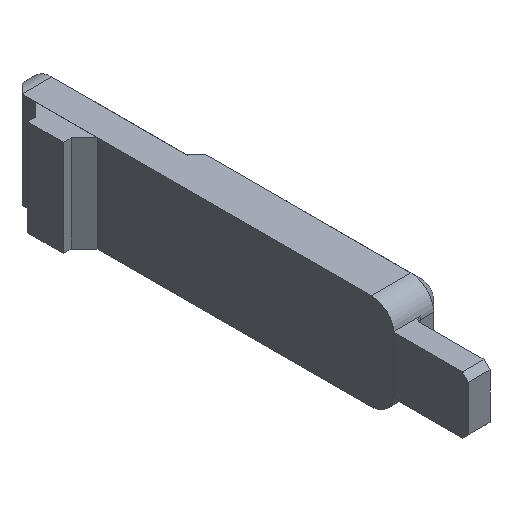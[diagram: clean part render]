
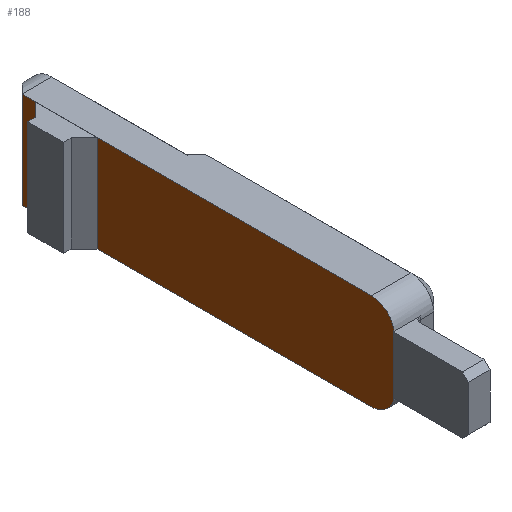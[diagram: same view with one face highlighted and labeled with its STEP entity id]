
A CAD part, isometric view. The second image highlights one B-rep face of the part: STEP entity #188.
In plain terms, the highlighted planar face has unit normal (-1, -0.001, 0).
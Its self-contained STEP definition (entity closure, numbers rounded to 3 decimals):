
#83=CARTESIAN_POINT('',(20.382,0.02,0.));
#84=DIRECTION('',(1.,0.001,0.));
#85=DIRECTION('',(-0.001,1.,0.));
#86=AXIS2_PLACEMENT_3D('',#83,#84,#85);
#87=PLANE('',#86);
#88=CARTESIAN_POINT('',(20.16,223.064,37.028));
#89=VERTEX_POINT('',#88);
#90=CARTESIAN_POINT('',(20.189,193.843,37.028));
#91=VERTEX_POINT('',#90);
#92=CARTESIAN_POINT('',(20.16,223.064,37.028));
#93=DIRECTION('',(0.001,-1.,0.));
#94=VECTOR('',#93,29.221);
#95=LINE('',#92,#94);
#96=EDGE_CURVE('',#89,#91,#95,.T.);
#97=ORIENTED_EDGE('',*,*,#96,.F.);
#98=CARTESIAN_POINT('',(20.16,223.064,28.972));
#99=VERTEX_POINT('',#98);
#100=CARTESIAN_POINT('',(20.16,223.064,37.028));
#101=DIRECTION('',(0.,0.,-1.));
#102=VECTOR('',#101,8.057);
#103=LINE('',#100,#102);
#104=EDGE_CURVE('',#89,#99,#103,.T.);
#105=ORIENTED_EDGE('',*,*,#104,.T.);
#106=CARTESIAN_POINT('',(20.161,221.954,28.972));
#107=VERTEX_POINT('',#106);
#108=CARTESIAN_POINT('',(20.161,221.954,28.972));
#109=DIRECTION('',(-0.001,1.,-0.));
#110=VECTOR('',#109,1.11);
#111=LINE('',#108,#110);
#112=EDGE_CURVE('',#107,#99,#111,.T.);
#113=ORIENTED_EDGE('',*,*,#112,.F.);
#114=CARTESIAN_POINT('',(20.161,221.954,37.027));
#115=VERTEX_POINT('',#114);
#116=CARTESIAN_POINT('',(20.161,221.954,28.972));
#117=DIRECTION('',(0.,0.,1.));
#118=VECTOR('',#117,8.055);
#119=LINE('',#116,#118);
#120=EDGE_CURVE('',#107,#115,#119,.T.);
#121=ORIENTED_EDGE('',*,*,#120,.T.);
#122=CARTESIAN_POINT('',(20.167,216.754,37.027));
#123=VERTEX_POINT('',#122);
#124=CARTESIAN_POINT('',(20.167,216.754,37.027));
#125=DIRECTION('',(-0.001,1.,-0.));
#126=VECTOR('',#125,5.2);
#127=LINE('',#124,#126);
#128=EDGE_CURVE('',#123,#115,#127,.T.);
#129=ORIENTED_EDGE('',*,*,#128,.F.);
#130=CARTESIAN_POINT('',(20.167,216.754,28.972));
#131=VERTEX_POINT('',#130);
#132=CARTESIAN_POINT('',(20.167,216.754,37.027));
#133=DIRECTION('',(0.,0.,-1.));
#134=VECTOR('',#133,8.055);
#135=LINE('',#132,#134);
#136=EDGE_CURVE('',#123,#131,#135,.T.);
#137=ORIENTED_EDGE('',*,*,#136,.T.);
#138=CARTESIAN_POINT('',(20.189,193.843,28.972));
#139=VERTEX_POINT('',#138);
#140=CARTESIAN_POINT('',(20.189,193.843,28.972));
#141=DIRECTION('',(-0.001,1.,-0.));
#142=VECTOR('',#141,22.911);
#143=LINE('',#140,#142);
#144=EDGE_CURVE('',#139,#131,#143,.T.);
#145=ORIENTED_EDGE('',*,*,#144,.F.);
#146=CARTESIAN_POINT('',(20.191,191.963,30.6));
#147=VERTEX_POINT('',#146);
#148=CARTESIAN_POINT('',(20.189,193.843,30.872));
#149=DIRECTION('',(-1.,-0.001,0.));
#150=DIRECTION('',(-0.001,1.,0.));
#151=AXIS2_PLACEMENT_3D('',#148,#149,#150);
#152=CIRCLE('',#151,1.9);
#153=EDGE_CURVE('',#139,#147,#152,.T.);
#154=ORIENTED_EDGE('',*,*,#153,.T.);
#155=CARTESIAN_POINT('',(20.191,192.043,30.6));
#156=VERTEX_POINT('',#155);
#157=CARTESIAN_POINT('',(20.191,192.043,30.6));
#158=DIRECTION('',(0.001,-1.,0.));
#159=VECTOR('',#158,0.08);
#160=LINE('',#157,#159);
#161=EDGE_CURVE('',#156,#147,#160,.T.);
#162=ORIENTED_EDGE('',*,*,#161,.F.);
#163=CARTESIAN_POINT('',(20.191,192.043,35.4));
#164=VERTEX_POINT('',#163);
#165=CARTESIAN_POINT('',(20.191,192.043,30.6));
#166=DIRECTION('',(0.,0.,1.));
#167=VECTOR('',#166,4.8);
#168=LINE('',#165,#167);
#169=EDGE_CURVE('',#156,#164,#168,.T.);
#170=ORIENTED_EDGE('',*,*,#169,.T.);
#171=CARTESIAN_POINT('',(20.191,191.963,35.4));
#172=VERTEX_POINT('',#171);
#173=CARTESIAN_POINT('',(20.191,191.963,35.4));
#174=DIRECTION('',(-0.001,1.,0.));
#175=VECTOR('',#174,0.08);
#176=LINE('',#173,#175);
#177=EDGE_CURVE('',#172,#164,#176,.T.);
#178=ORIENTED_EDGE('',*,*,#177,.F.);
#179=CARTESIAN_POINT('',(20.189,193.843,35.128));
#180=DIRECTION('',(-1.,-0.001,0.));
#181=DIRECTION('',(-0.001,1.,0.));
#182=AXIS2_PLACEMENT_3D('',#179,#180,#181);
#183=CIRCLE('',#182,1.9);
#184=EDGE_CURVE('',#172,#91,#183,.T.);
#185=ORIENTED_EDGE('',*,*,#184,.T.);
#186=EDGE_LOOP('',(#97,#105,#113,#121,#129,#137,#145,#154,#162,#170,#178,#185));
#187=FACE_BOUND('',#186,.T.);
#188=ADVANCED_FACE('',(#187),#87,.F.);
